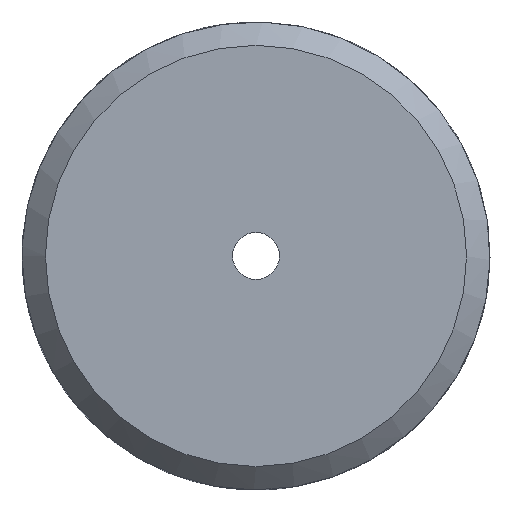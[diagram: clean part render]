
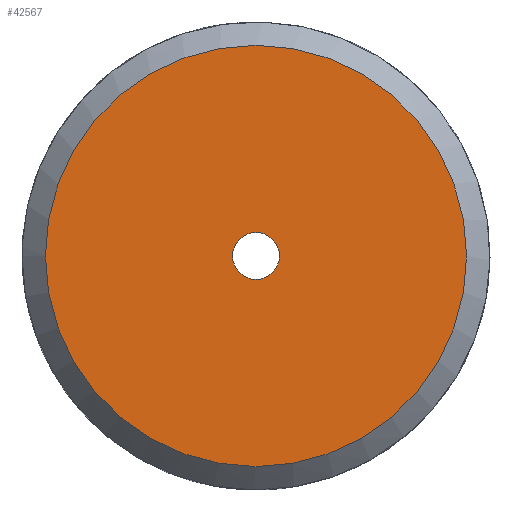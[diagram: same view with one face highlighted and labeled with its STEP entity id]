
A CAD part, left-side view. The second image highlights one B-rep face of the part: STEP entity #42567.
In plain terms, the highlighted planar face has unit normal (-1, 0, 0).
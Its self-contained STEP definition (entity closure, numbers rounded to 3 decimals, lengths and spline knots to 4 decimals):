
#12826=ORIENTED_EDGE('',*,*,#14757,.F.);
#12827=ORIENTED_EDGE('',*,*,#14758,.F.);
#13088=CIRCLE('',#42261,9.);
#13089=CIRCLE('',#42263,1.);
#13775=VERTEX_POINT('',#41742);
#13776=VERTEX_POINT('',#41745);
#14757=EDGE_CURVE('',#13775,#13775,#13088,.T.);
#14758=EDGE_CURVE('',#13776,#13776,#13089,.T.);
#15060=EDGE_LOOP('',(#12826));
#15061=EDGE_LOOP('',(#12827));
#15365=FACE_BOUND('',#15060,.T.);
#15366=FACE_BOUND('',#15061,.T.);
#16391=DIRECTION('',(1.,0.,0.));
#16392=DIRECTION('',(0.,0.,-9.));
#16393=DIRECTION('',(-1.,0.,0.));
#16394=DIRECTION('',(0.,1.,0.));
#16395=DIRECTION('',(-1.,0.,0.));
#16396=DIRECTION('',(0.,0.,1.));
#41742=CARTESIAN_POINT('',(0.,0.,-9.));
#41743=CARTESIAN_POINT('',(0.,0.,0.));
#41744=CARTESIAN_POINT('',(0.,0.,-9.));
#41745=CARTESIAN_POINT('',(0.,0.,1.));
#41746=CARTESIAN_POINT('',(0.,0.,0.));
#42261=AXIS2_PLACEMENT_3D('',#41743,#16391,#16392);
#42262=AXIS2_PLACEMENT_3D('',#41744,#16393,#16394);
#42263=AXIS2_PLACEMENT_3D('',#41746,#16395,#16396);
#42268=PLANE('',#42262);
#42567=ADVANCED_FACE('',(#15365,#15366),#42268,.T.);
